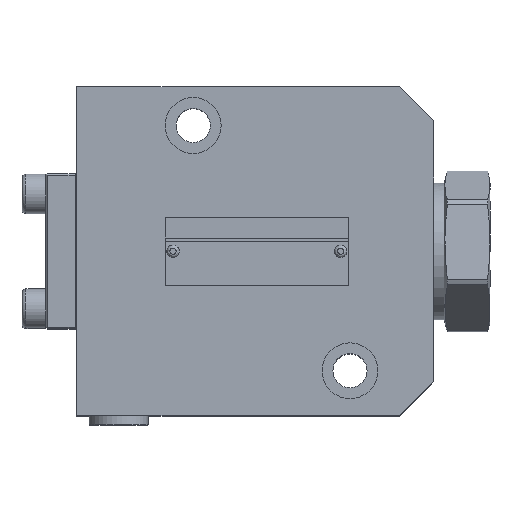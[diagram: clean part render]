
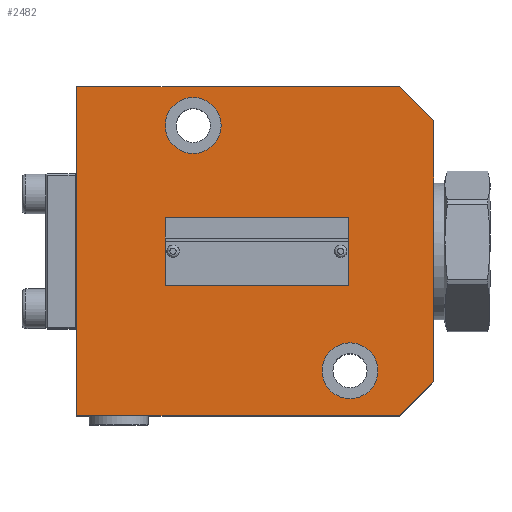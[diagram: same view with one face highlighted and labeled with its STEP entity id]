
A CAD part, top view. The second image highlights one B-rep face of the part: STEP entity #2482.
In plain terms, the highlighted planar face has unit normal (0, 0, 1).
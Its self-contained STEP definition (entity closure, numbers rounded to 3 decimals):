
#937=PLANE('',#7500);
#1222=FACE_BOUND('',#3291,.T.);
#1223=FACE_BOUND('',#3292,.T.);
#1224=FACE_BOUND('',#3293,.T.);
#1225=FACE_BOUND('',#3294,.T.);
#1226=FACE_BOUND('',#3295,.T.);
#1664=LINE('',#28233,#2051);
#1667=LINE('',#28247,#2054);
#1670=LINE('',#28253,#2057);
#1673=LINE('',#28261,#2060);
#1676=LINE('',#28267,#2063);
#1679=LINE('',#28280,#2066);
#2051=VECTOR('',#8584,1.);
#2054=VECTOR('',#8597,1.);
#2057=VECTOR('',#8602,1.);
#2060=VECTOR('',#8609,1.);
#2063=VECTOR('',#8614,1.);
#2066=VECTOR('',#8627,1.);
#2482=ADVANCED_FACE('',(#1222,#1223,#1224,#1225,#1226),#937,.T.);
#3291=EDGE_LOOP('',(#4615));
#3292=EDGE_LOOP('',(#4616));
#3293=EDGE_LOOP('',(#4617));
#3294=EDGE_LOOP('',(#4618));
#3295=EDGE_LOOP('',(#4619,#4620,#4621,#4622,#4623,#4624));
#3699=CIRCLE('',#7496,0.9);
#3700=CIRCLE('',#7497,0.9);
#3701=CIRCLE('',#7498,9.);
#3702=CIRCLE('',#7499,9.);
#4615=ORIENTED_EDGE('',*,*,#6508,.T.);
#4616=ORIENTED_EDGE('',*,*,#6509,.T.);
#4617=ORIENTED_EDGE('',*,*,#6510,.F.);
#4618=ORIENTED_EDGE('',*,*,#6511,.F.);
#4619=ORIENTED_EDGE('',*,*,#6483,.F.);
#4620=ORIENTED_EDGE('',*,*,#6507,.F.);
#4621=ORIENTED_EDGE('',*,*,#6500,.F.);
#4622=ORIENTED_EDGE('',*,*,#6497,.F.);
#4623=ORIENTED_EDGE('',*,*,#6493,.F.);
#4624=ORIENTED_EDGE('',*,*,#6490,.F.);
#5780=VERTEX_POINT('',#28232);
#5781=VERTEX_POINT('',#28234);
#5787=VERTEX_POINT('',#28248);
#5789=VERTEX_POINT('',#28254);
#5792=VERTEX_POINT('',#28262);
#5794=VERTEX_POINT('',#28268);
#5799=VERTEX_POINT('',#28283);
#5800=VERTEX_POINT('',#28285);
#5801=VERTEX_POINT('',#28287);
#5802=VERTEX_POINT('',#28289);
#6483=EDGE_CURVE('',#5780,#5781,#1664,.T.);
#6490=EDGE_CURVE('',#5781,#5787,#1667,.T.);
#6493=EDGE_CURVE('',#5787,#5789,#1670,.T.);
#6497=EDGE_CURVE('',#5789,#5792,#1673,.T.);
#6500=EDGE_CURVE('',#5792,#5794,#1676,.T.);
#6507=EDGE_CURVE('',#5794,#5780,#1679,.T.);
#6508=EDGE_CURVE('',#5799,#5799,#3699,.T.);
#6509=EDGE_CURVE('',#5800,#5800,#3700,.T.);
#6510=EDGE_CURVE('',#5801,#5801,#3701,.T.);
#6511=EDGE_CURVE('',#5802,#5802,#3702,.T.);
#7496=AXIS2_PLACEMENT_3D('',#28282,#8630,#8631);
#7497=AXIS2_PLACEMENT_3D('',#28284,#8632,#8633);
#7498=AXIS2_PLACEMENT_3D('',#28286,#8634,#8635);
#7499=AXIS2_PLACEMENT_3D('',#28288,#8636,#8637);
#7500=AXIS2_PLACEMENT_3D('',#28290,#8638,#8639);
#8584=DIRECTION('',(0.,1.,0.));
#8597=DIRECTION('',(1.,0.,0.));
#8602=DIRECTION('',(0.707,-0.707,0.));
#8609=DIRECTION('',(0.,-1.,0.));
#8614=DIRECTION('',(-0.707,-0.707,0.));
#8627=DIRECTION('',(-1.,0.,0.));
#8630=DIRECTION('',(0.,0.,-1.));
#8631=DIRECTION('',(-1.,0.,0.));
#8632=DIRECTION('',(0.,0.,-1.));
#8633=DIRECTION('',(-1.,0.,0.));
#8634=DIRECTION('',(0.,0.,1.));
#8635=DIRECTION('',(1.,0.,0.));
#8636=DIRECTION('',(0.,0.,1.));
#8637=DIRECTION('',(1.,0.,0.));
#8638=DIRECTION('',(0.,0.,1.));
#8639=DIRECTION('',(-1.,0.,0.));
#28232=CARTESIAN_POINT('',(279.731,125.834,22.04));
#28233=CARTESIAN_POINT('',(279.731,125.834,22.04));
#28234=CARTESIAN_POINT('',(279.731,231.834,22.04));
#28247=CARTESIAN_POINT('',(279.731,231.834,22.04));
#28248=CARTESIAN_POINT('',(383.731,231.834,22.04));
#28253=CARTESIAN_POINT('',(383.731,231.834,22.04));
#28254=CARTESIAN_POINT('',(394.731,220.834,22.04));
#28261=CARTESIAN_POINT('',(394.731,220.834,22.04));
#28262=CARTESIAN_POINT('',(394.731,136.834,22.04));
#28267=CARTESIAN_POINT('',(394.731,136.834,22.04));
#28268=CARTESIAN_POINT('',(383.731,125.834,22.04));
#28280=CARTESIAN_POINT('',(383.731,125.834,22.04));
#28282=CARTESIAN_POINT('',(364.731,178.834,22.04));
#28283=CARTESIAN_POINT('',(363.831,178.834,22.04));
#28284=CARTESIAN_POINT('',(310.731,178.834,22.04));
#28285=CARTESIAN_POINT('',(309.831,178.834,22.04));
#28286=CARTESIAN_POINT('',(317.231,219.334,22.04));
#28287=CARTESIAN_POINT('',(326.231,219.334,22.04));
#28288=CARTESIAN_POINT('',(367.731,140.334,22.04));
#28289=CARTESIAN_POINT('',(376.731,140.334,22.04));
#28290=CARTESIAN_POINT('',(367.731,140.334,22.04));
